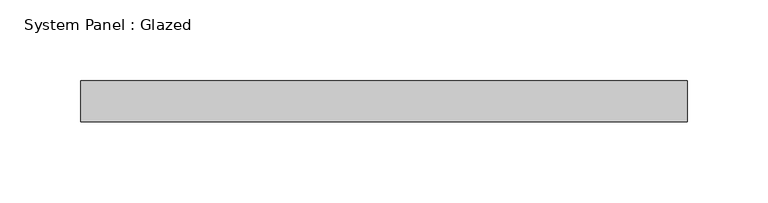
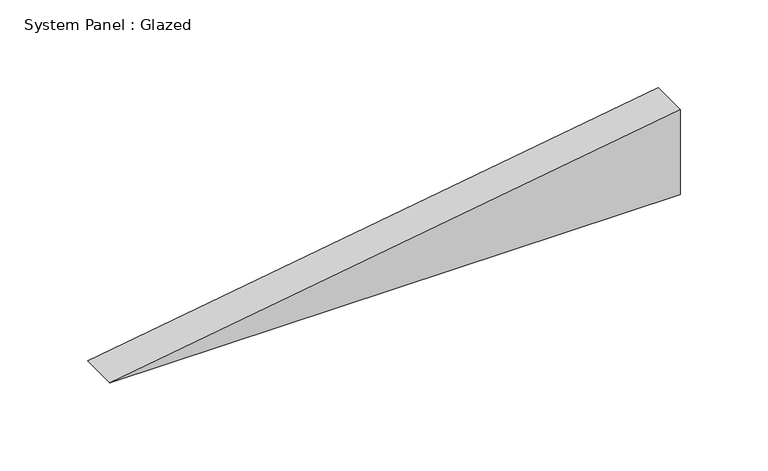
"""IFC4 building model written with IfcOpenShell, lengths in millimetres: plate geometry, System Panel : Glazed."""

from ifc_helpers import new_model, si_unit, frame, origin, place, context, project, spatial, polyline, outline, extrude, source, transform, mapped, element, save


def system_panel_glazed_7b8e2228(model_context):
    return source(origin(), model_context, "Body", "SweptSolid", [
        extrude(outline(polyline([(0.0, -187.8038761), (0.0, 187.8038761), (59.0170697, 187.8038761), (0.0, -187.8038761)])), frame((0.0, 19.05, 0.0), z_axis=(0.0, 1.0, 0.0), x_axis=(0.0, 0.0, 1.0)), (0.0, 0.0, 1.0), 25.4),
    ])


if __name__ == "__main__":
    model = new_model("IFC4")
    model_context = context("Model", 3, world=origin())
    ifc_project = project(units=[si_unit("LENGTHUNIT", "METRE", prefix="MILLI")], contexts=[model_context])
    site = spatial("IfcSite", under=ifc_project)
    building = spatial("IfcBuilding", under=site)
    placement = place(None, origin())
    system_panel_glazed_shape = system_panel_glazed_7b8e2228(model_context)
    element("IfcPlate", 1, ObjectType="System Panel : Glazed", at=placement, inside=building, context=model_context, shape_type="MappedRepresentation", body=[
        mapped(system_panel_glazed_shape, transform((0.0, 0.0, 0.0), x_axis=(1.0, 0.0, 0.0), y_axis=(0.0, 1.0, 0.0), z_axis=(0.0, 0.0, 1.0))),
    ])
    save(model, "model.ifc")
